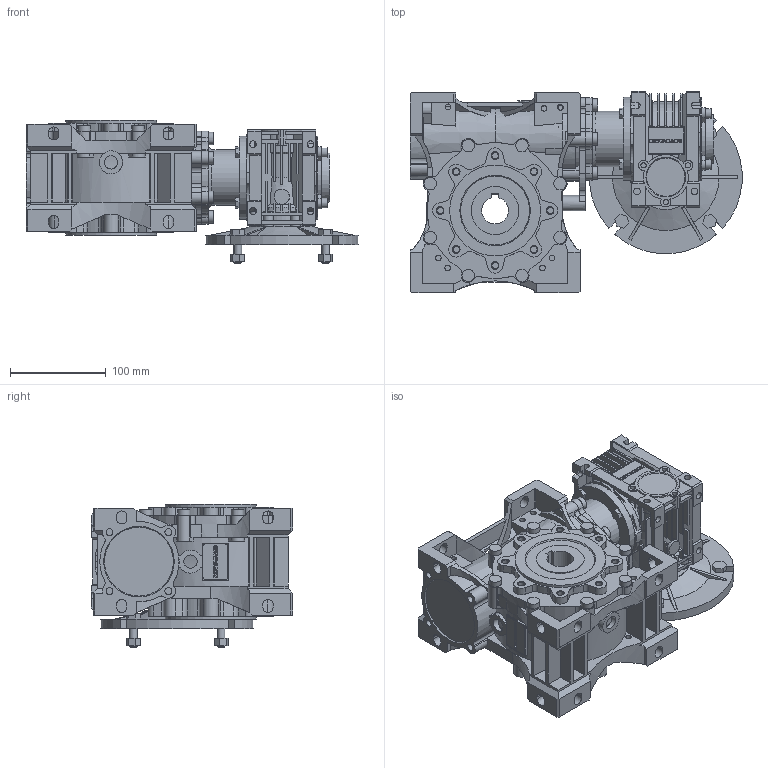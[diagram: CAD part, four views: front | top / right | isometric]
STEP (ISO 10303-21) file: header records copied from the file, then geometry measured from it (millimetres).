
FILE_DESCRIPTION(/* description */ ('STEP AP242','CAx-IF Rec.Pracs.---Representation and Presentation of Product Manufacturing Information (PMI)---4.0---2014-10-13','CAx-IF Rec.Pracs.---3D Tessellated Geometry---0.4---2014-09-14','2;1'),/* implementation_level */ '2;1');
FILE_NAME(/* name */ 'NMRVP-NMRVP_040-075_250__10x25__BS1_160x14_18_NO_28_NO_NO_-_-_NO_-_-_-_NO_NO_-_--_--------',/* time_stamp */ '2025-10-09T12:16:20+02:00',/* author */ ('License CC BY-ND 4.0'),/* organization */ ('CADENAS'),/* preprocessor_version */ 'ST-DEVELOPER v19.3',/* originating_system */ 'PARTsolutions',/* authorisation */ ' ');
FILE_SCHEMA (('AP242_MANAGED_MODEL_BASED_3D_ENGINEERING_MIM_LF { 1 0 10303 442 1 1 4 }'));
Products named in the file (11): NMRVP-NMRVP 040-075 250 (10x25) BS1 160x14 18 NO 28 NO NO - - NO - - 
- NO NO - --(--------); W.075.01.M; 075-28 (120); W.075.14.24.M-p; 040-075-TRA; W.040.01.M; 040-18 (78); VB 040-14 (14)-p; 4071 B5; Corona 40-p; 75-50
Assembly tree (10 placements, depth 2):
  NMRVP-NMRVP 040-075 250 (10x25) BS1 160x14 18 NO 28 NO NO - - NO - - 
- NO NO - --(--------)
    W.075.01.M
    075-28 (120)
    W.075.14.24.M-p
    040-075-TRA
    W.040.01.M
    040-18 (78)
    VB 040-14 (14)-p
    4071 B5
    Corona 40-p
    75-50
Bounding box: 347.24 x 211 x 150 mm (x, y, z)
Volume: 3648387.3 mm3; surface area: 593947.6 mm2
Topology: 10 solids, 16 shells, 2260 faces, 6100 edges, 4011 vertices
Faces by surface type: plane 1456, cylinder 708, cone 92, torus 4
Full cylindrical faces by diameter (mm): 4.917 x8, 5.55 x3, 6 x14, 6.647 x16, 7 x6, 7.26 x12, 8 x8, 10 x11, 10.8 x4, 11 x6, 13 x14, 14 x3, 16 x1, 23 x2, 24 x1, 28 x1, 29 x1, 30 x2, 31 x1, 35 x1, 36 x1, 40 x2, 42 x1, 47 x1, 48 x1, 50 x3, 58 x1, 60 x3, 67.5 x1, 68 x3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
Entity records: 86053 total; most frequent: CARTESIAN_POINT 13270, DIRECTION 11903, ORIENTED_EDGE 11762, EDGE_CURVE 5881, AXIS2_PLACEMENT_3D 4062, VERTEX_POINT 3982, LINE 3779, VECTOR 3779
